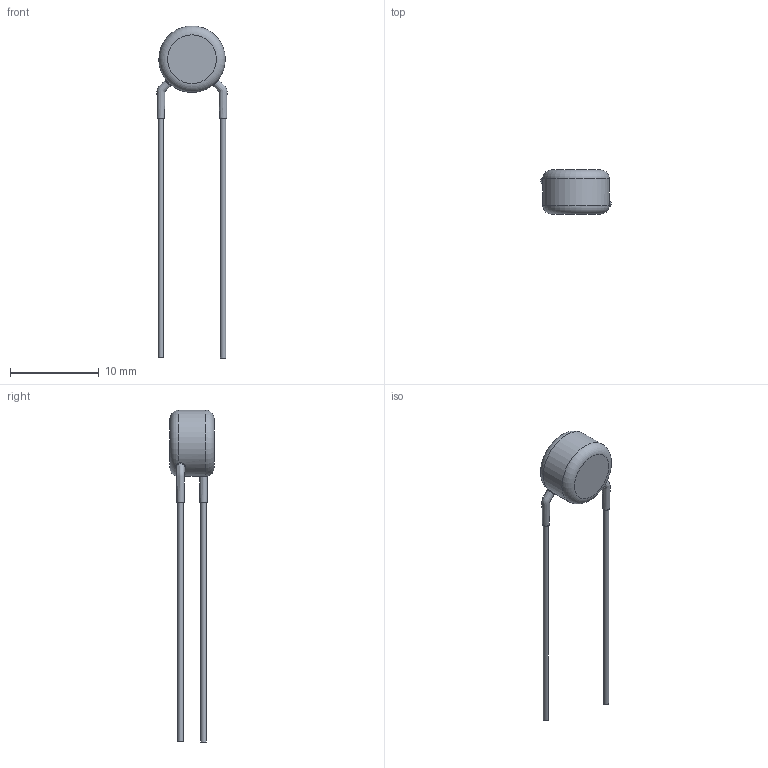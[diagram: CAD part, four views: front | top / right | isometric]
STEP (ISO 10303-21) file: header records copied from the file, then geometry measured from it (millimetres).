
FILE_DESCRIPTION(/* description */ (''),/* implementation_level */ '2;1');
FILE_NAME(/* name */ 'I:\Marketing\M6t1\3D-Models\Zchng-Werk-3\Upload for homepage\BCC neu\AY2 Straight\Step\AY2102#29Y5US63L7.stp',/* time_stamp */ '2023-07-13T14:07:58+02:00',/* author */ ('truediger'),/* organization */ (''),/* preprocessor_version */ 'ST-DEVELOPER v18',/* originating_system */ 'Autodesk Inventor 2020',/* authorisation */ '');
FILE_SCHEMA (('AUTOMOTIVE_DESIGN { 1 0 10303 214 3 1 1 }'));
Length unit declared in the file: millimetre
Products named in the file (1): Bauteil2
Bounding box: 7.91 x 5 x 37.5 mm (x, y, z)
Volume: 232.1 mm3; surface area: 310.8 mm2
Topology: 1 solids, 1 shells, 19 faces, 43 edges, 28 vertices
Faces by surface type: bspline 8, plane 6, cylinder 3, torus 2
Full cylindrical faces by diameter (mm): 0.6 x2, 7.5 x1
Entity records: 1798 total; most frequent: CARTESIAN_POINT 1337, ORIENTED_EDGE 86, DIRECTION 75, EDGE_CURVE 43, AXIS2_PLACEMENT_3D 36, VERTEX_POINT 28, CIRCLE 24, EDGE_LOOP 21
